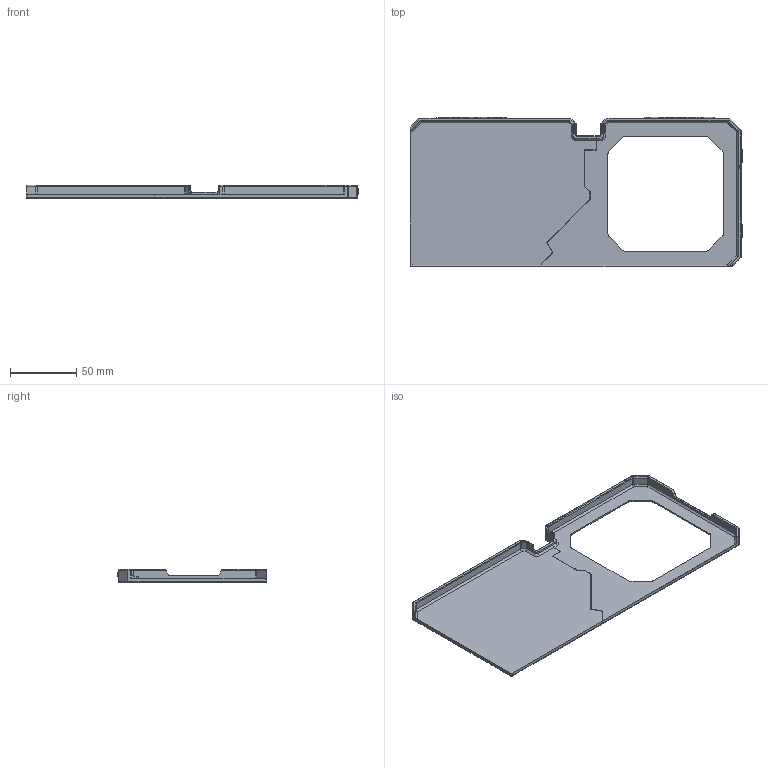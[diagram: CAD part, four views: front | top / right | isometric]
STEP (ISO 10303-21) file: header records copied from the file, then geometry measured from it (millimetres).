
FILE_DESCRIPTION((''),'2;1');
FILE_NAME('F306_MAKER_BACKPLATE','2023-11-08T16:08:03',('Kate'),(''),'CREO PARAMETRIC BY PTC INC, 2020281','CREO PARAMETRIC BY PTC INC, 2020281','');
FILE_SCHEMA(('CONFIG_CONTROL_DESIGN'));
Length unit declared in the file: millimetre
Products named in the file (1): F306_MAKER_BACKPLATE
Bounding box: 250.7 x 112.7 x 10 mm (x, y, z)
Volume: 42345.5 mm3; surface area: 52099 mm2
Topology: 2 solids, 2 shells, 1170 faces, 3021 edges, 1897 vertices
Faces by surface type: plane 625, cylinder 361, torus 92, cone 42, bspline 37, sphere 13
Entity records: 36450 total; most frequent: CARTESIAN_POINT 7782, ORIENTED_EDGE 6030, DIRECTION 5959, EDGE_CURVE 3015, AXIS2_PLACEMENT_3D 2006, VECTOR 1947, LINE 1947, VERTEX_POINT 1897
